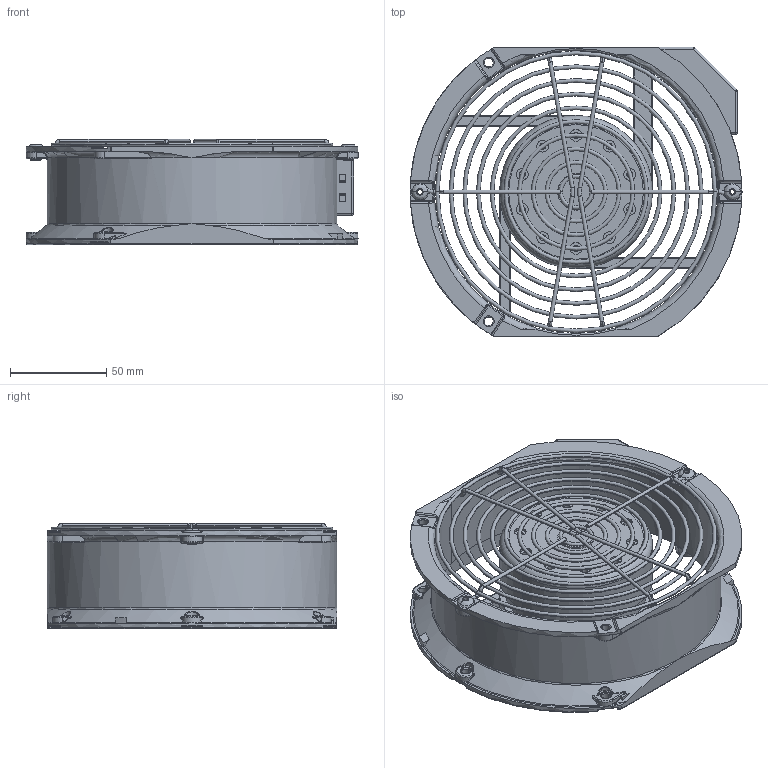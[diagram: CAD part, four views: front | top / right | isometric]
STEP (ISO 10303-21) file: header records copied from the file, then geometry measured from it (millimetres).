
FILE_DESCRIPTION((''),'2;1');
FILE_NAME('SCE-CF6_ASM','2021-10-01T15:56:28',('mikek'),('SAGINAW CONTROL & ENGINEERING'),'CREO PARAMETRIC BY PTC INC, 2017260','CREO PARAMETRIC BY PTC INC, 2017260','');
FILE_SCHEMA(('AUTOMOTIVE_DESIGN { 1 0 10303 214 1 1 1 1 }'));
Length unit declared in the file: inch
Products named in the file (4): FAN-HOUSING-102453; 105942; 102597; SCE-CF6_ASM
Assembly tree (4 placements, depth 2):
  SCE-CF6_ASM
    FAN-HOUSING-102453
    105942
    102597  x2
Bounding box: 172.24 x 150.29 x 54.64 mm (x, y, z)
Volume: 353813.2 mm3; surface area: 116365 mm2
Topology: 17 solids, 17 shells, 838 faces, 1997 edges, 1199 vertices
Faces by surface type: cylinder 238, torus 204, plane 196, bspline 178, cone 14, sphere 8
Entity records: 39679 total; most frequent: CARTESIAN_POINT 15474, ORIENTED_EDGE 3930, DIRECTION 3713, EDGE_CURVE 1965, PRESENTATION_STYLE_ASSIGNMENT 1728, STYLED_ITEM 1706, CURVE_STYLE 1705, AXIS2_PLACEMENT_3D 1588
